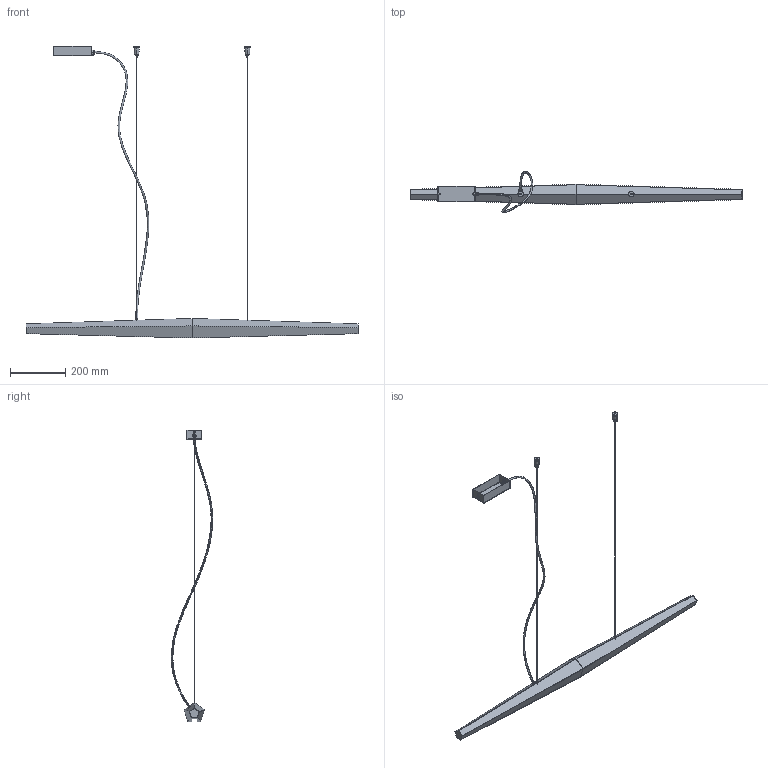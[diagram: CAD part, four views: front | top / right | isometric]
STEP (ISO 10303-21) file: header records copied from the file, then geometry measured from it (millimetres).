
FILE_DESCRIPTION(/* description */ (''),/* implementation_level */ '2;1');
FILE_NAME(/* name */ 'L020.120',/* time_stamp */ '2024-09-02T16:56:34+02:00',/* author */ (''),/* organization */ (''),/* preprocessor_version */ 'ST-DEVELOPER v16.5',/* originating_system */ '',/* authorisation */ '');
FILE_SCHEMA (('AUTOMOTIVE_DESIGN'));
Length unit declared in the file: millimetre
Products named in the file (20): Document; L020__.120.0402; 1800.0017001.00 (dispositivo sospensione meccanica singola M79D)_Volu
me; 5200.0002000.00 (dispositivo regolazione fune OTTONE nichelato con in
nesto maschio M10 L 14mm)_5200.0002000.00; 3300.0298000.00 (manicotto per sospensione singola ALL D 20mm H 32mm 
con foro M10x1)_3302.0298000.00; Parte1^L020__.120.0402; 2202.0042000.00 (corpo Viisi L 120 luce diretta con cablaggio DALI)_V
olume per disegno; 5402.0002000.00 (fune ACC 19 fili D 1,2mm con sfera terminale D 5mm)_
5402.0002100.00; 3300.0058000.00 (struttura ALL sezione pentagonale L 1200mm sp 1,5)_3
300.0058001.00; 3100.0016000.00 (passacavo PVC per foro M10 D int. 6,5mm trasparente)
_3104.0016000.00; 2202.0039000.00 (slitta Viisi L 120 con cablaggio DALI)_Volume; 3100.0015000.00 (schermo estruso PC 19,2x4mm)_3101.0015090.98; 2200.0002000.00 (rosone 136,2x55,4x35mm)_Volume; socket button head screw_iso_ISO 7380 - M4 x 10 - 10N; 4504.0003000.00 (bloccacavo M10 maschio Steab 5100-7+grano EI M7 Stea
b 5408-4-10)_4504.0003001.00; 4504.0016000.00 (bloccacavo M10 maschio Steab 5100-7)_4504.0016001.00; 4504.0002000.00 (grano EI M7 Steab 5408-4-10)_4504.0002000.00; 5102.0003000.00 (dado esagonale zigrinato M10 H 4mm FE zincato)_5102.
0003000.00; 5500.0002000.00 (tappo per foro M10 PVC trasparente Steab 6301-10-01)
_5500.0002000.00; 3200.0018000.00 (scatola rosone ACC 136,2x55,4x35mm sp 1,2)_3209.0018
000.00
Assembly tree (22 placements, depth 5):
  Document
    L020__.120.0402
      1800.0017001.00 (dispositivo sospensione meccanica singola M79D)_Volu
me  x2
        5200.0002000.00 (dispositivo regolazione fune OTTONE nichelato con in
nesto maschio M10 L 14mm)_5200.0002000.00
        3300.0298000.00 (manicotto per sospensione singola ALL D 20mm H 32mm 
con foro M10x1)_3302.0298000.00
      Parte1^L020__.120.0402
      2202.0042000.00 (corpo Viisi L 120 luce diretta con cablaggio DALI)_V
olume per disegno
        5402.0002000.00 (fune ACC 19 fili D 1,2mm con sfera terminale D 5mm)_
5402.0002100.00  x2
        3300.0058000.00 (struttura ALL sezione pentagonale L 1200mm sp 1,5)_3
300.0058001.00
        3100.0016000.00 (passacavo PVC per foro M10 D int. 6,5mm trasparente)
_3104.0016000.00
        2202.0039000.00 (slitta Viisi L 120 con cablaggio DALI)_Volume
          3100.0015000.00 (schermo estruso PC 19,2x4mm)_3101.0015090.98
      2200.0002000.00 (rosone 136,2x55,4x35mm)_Volume
        socket button head screw_iso_ISO 7380 - M4 x 10 - 10N  x2
        4504.0003000.00 (bloccacavo M10 maschio Steab 5100-7+grano EI M7 Stea
b 5408-4-10)_4504.0003001.00
          4504.0016000.00 (bloccacavo M10 maschio Steab 5100-7)_4504.0016001.00
          4504.0002000.00 (grano EI M7 Steab 5408-4-10)_4504.0002000.00
        5102.0003000.00 (dado esagonale zigrinato M10 H 4mm FE zincato)_5102.
0003000.00
        5500.0002000.00 (tappo per foro M10 PVC trasparente Steab 6301-10-01)
_5500.0002000.00
        3200.0018000.00 (scatola rosone ACC 136,2x55,4x35mm sp 1,2)_3209.0018
000.00
Bounding box: 1200 x 149.53 x 1055.34 mm (x, y, z)
Volume: 457198.8 mm3; surface area: 595847.8 mm2
Topology: 21 solids, 21 shells, 624 faces, 1543 edges, 931 vertices
Faces by surface type: bspline 345, plane 279
Entity records: 21802 total; most frequent: CARTESIAN_POINT 13642, ORIENTED_EDGE 2422, EDGE_CURVE 1211, B_SPLINE_CURVE_WITH_KNOTS 783, VERTEX_POINT 745, EDGE_LOOP 544, ADVANCED_FACE 500, FACE_OUTER_BOUND 500
